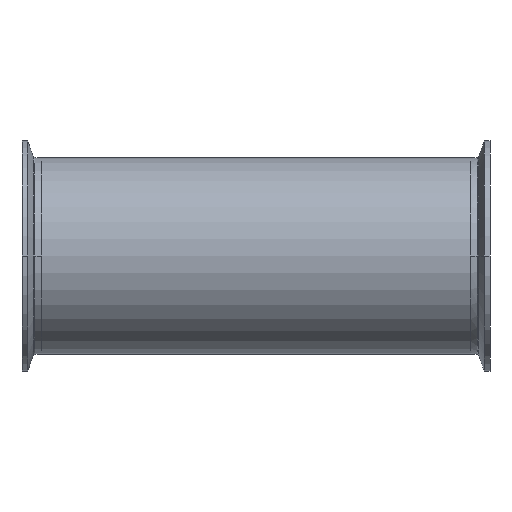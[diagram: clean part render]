
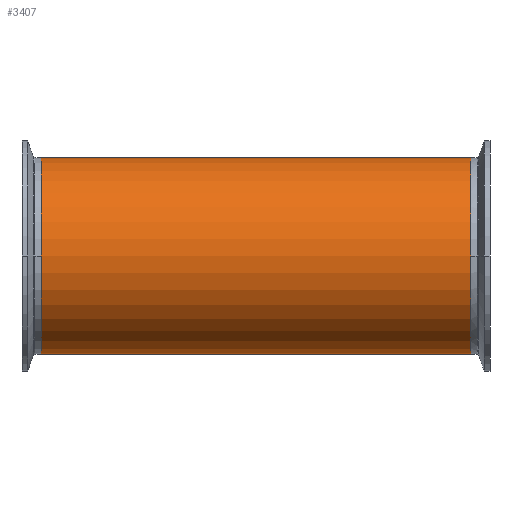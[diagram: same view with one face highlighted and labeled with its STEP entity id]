
A CAD part, front view. The second image highlights one B-rep face of the part: STEP entity #3407.
In plain terms, the highlighted cylindrical face has radius 50.8 mm (diameter 101.6 mm), a partial arc.
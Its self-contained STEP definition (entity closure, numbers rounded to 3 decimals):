
#77 = ORIENTED_EDGE ( 'NONE', *, *, #3251, .F. ) ;
#78 = EDGE_LOOP ( 'NONE', ( #77, #4073, #3042, #2020 ) ) ;
#736 = VECTOR ( 'NONE', #3953, 1000. ) ;
#1034 = FACE_OUTER_BOUND ( 'NONE', #78, .T. ) ;
#1047 = AXIS2_PLACEMENT_3D ( 'NONE', #4477, #2173, #4847 ) ;
#1384 = CARTESIAN_POINT ( 'NONE',  ( -110.7, 0., 0. ) ) ;
#1403 = CARTESIAN_POINT ( 'NONE',  ( 254.384, 0., -50.8 ) ) ;
#1579 = AXIS2_PLACEMENT_3D ( 'NONE', #2842, #3215, #4369 ) ;
#1603 = CARTESIAN_POINT ( 'NONE',  ( 254.384, 0., 50.8 ) ) ;
#1799 = DIRECTION ( 'NONE',  ( 0., 0., 1. ) ) ;
#2020 = ORIENTED_EDGE ( 'NONE', *, *, #3109, .T. ) ;
#2173 = DIRECTION ( 'NONE',  ( -1., 0., 0. ) ) ;
#2327 = VECTOR ( 'NONE', #2380, 1000. ) ;
#2380 = DIRECTION ( 'NONE',  ( -1., 0., 0. ) ) ;
#2415 = VERTEX_POINT ( 'NONE', #4948 ) ;
#2560 = CIRCLE ( 'NONE', #3151, 50.8 ) ;
#2814 = CARTESIAN_POINT ( 'NONE',  ( 110.7, 0., 50.8 ) ) ;
#2842 = CARTESIAN_POINT ( 'NONE',  ( 254.384, 0., 0. ) ) ;
#2863 = CARTESIAN_POINT ( 'NONE',  ( 110.7, 0., -50.8 ) ) ;
#2999 = EDGE_CURVE ( 'NONE', #4054, #2415, #4834, .T. ) ;
#3042 = ORIENTED_EDGE ( 'NONE', *, *, #2999, .T. ) ;
#3108 = CIRCLE ( 'NONE', #1047, 50.8 ) ;
#3109 = EDGE_CURVE ( 'NONE', #2415, #3477, #2560, .T. ) ;
#3151 = AXIS2_PLACEMENT_3D ( 'NONE', #1384, #4111, #1799 ) ;
#3215 = DIRECTION ( 'NONE',  ( -1., 0., 0. ) ) ;
#3251 = EDGE_CURVE ( 'NONE', #3767, #3477, #3343, .T. ) ;
#3343 = LINE ( 'NONE', #1403, #2327 ) ;
#3407 = ADVANCED_FACE ( 'NONE', ( #1034 ), #4029, .T. ) ;
#3429 = EDGE_CURVE ( 'NONE', #3767, #4054, #3108, .T. ) ;
#3477 = VERTEX_POINT ( 'NONE', #4942 ) ;
#3767 = VERTEX_POINT ( 'NONE', #2863 ) ;
#3953 = DIRECTION ( 'NONE',  ( -1., 0., 0. ) ) ;
#4029 = CYLINDRICAL_SURFACE ( 'NONE', #1579, 50.8 ) ;
#4054 = VERTEX_POINT ( 'NONE', #2814 ) ;
#4073 = ORIENTED_EDGE ( 'NONE', *, *, #3429, .T. ) ;
#4111 = DIRECTION ( 'NONE',  ( 1., 0., 0. ) ) ;
#4369 = DIRECTION ( 'NONE',  ( 0., 0., 1. ) ) ;
#4477 = CARTESIAN_POINT ( 'NONE',  ( 110.7, 0., 0. ) ) ;
#4834 = LINE ( 'NONE', #1603, #736 ) ;
#4847 = DIRECTION ( 'NONE',  ( 0., 0., 1. ) ) ;
#4942 = CARTESIAN_POINT ( 'NONE',  ( -110.7, 0., -50.8 ) ) ;
#4948 = CARTESIAN_POINT ( 'NONE',  ( -110.7, 0., 50.8 ) ) ;
